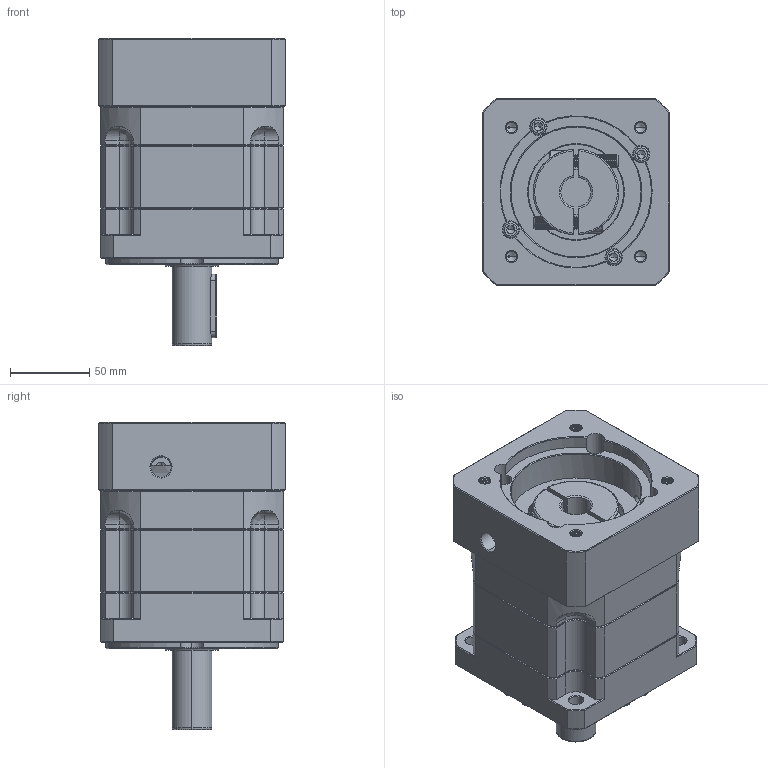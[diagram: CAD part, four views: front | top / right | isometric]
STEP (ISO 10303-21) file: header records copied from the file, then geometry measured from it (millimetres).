
FILE_DESCRIPTION (( 'STEP AP214' ), '1' );
FILE_NAME ('ZB115A-D25-L1-19-95-115-M8.step', '2023-03-02T08:55:51', ( '' ), ( 'Microsoft' ), 'SwSTEP 2.0', 'SolidWorks 2016', '' );
FILE_SCHEMA (( 'AUTOMOTIVE_DESIGN' ));
Length unit declared in the file: millimetre
Products named in the file (1): ZB115A-D25-L1-19-95-115-M8
Bounding box: 118 x 118 x 193.5 mm (x, y, z)
Volume: 1589561 mm3; surface area: 168714.8 mm2
Topology: 6 solids, 6 shells, 2142 faces, 5580 edges, 3527 vertices
Faces by surface type: plane 964, cylinder 450, cone 383, bspline 345
Entity records: 114476 total; most frequent: CARTESIAN_POINT 41371, ORIENTED_EDGE 11092, DIRECTION 9087, EDGE_CURVE 5546, VERTEX_POINT 3527, LINE 3389, VECTOR 3389, AXIS2_PLACEMENT_3D 2849
